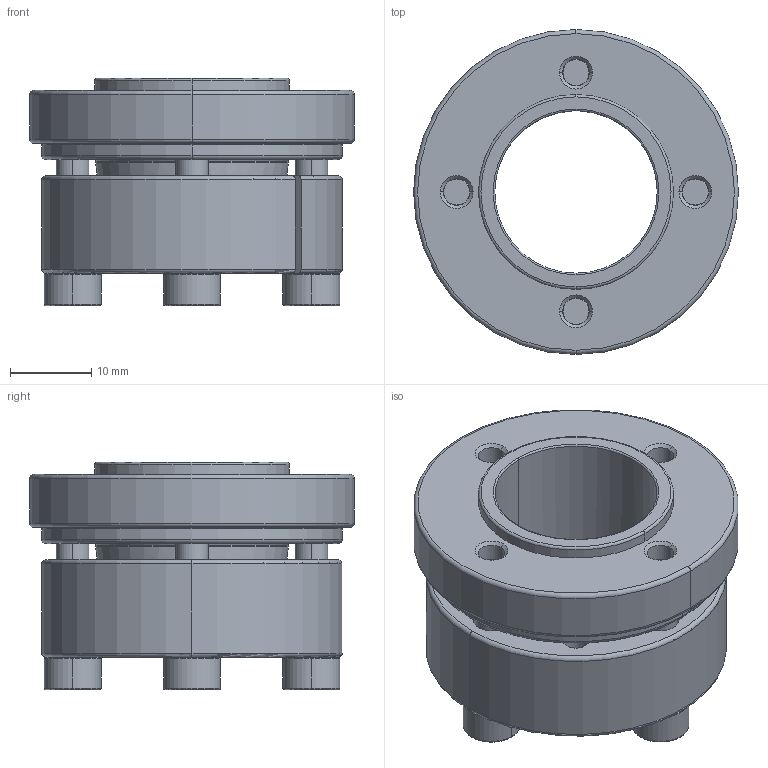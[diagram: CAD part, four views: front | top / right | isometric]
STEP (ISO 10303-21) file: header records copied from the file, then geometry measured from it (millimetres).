
FILE_DESCRIPTION (( 'STEP AP203' ), '1' );
FILE_NAME ('SAPC-20-37.STEP', '2013-07-25T03:23:03', ( 'MYCOM' ), ( '' ), 'SwSTEP 2.0', 'SolidWorks 2012', '' );
FILE_SCHEMA (( 'CONFIG_CONTROL_DESIGN' ));
Length unit declared in the file: millimetre
Products named in the file (1): SAPC-20-37
Bounding box: 40 x 40 x 28 mm (x, y, z)
Volume: 17185.2 mm3; surface area: 9594.6 mm2
Topology: 1 solids, 1 shells, 235 faces, 577 edges, 342 vertices
Faces by surface type: plane 84, torus 61, cylinder 57, cone 33
Entity records: 7127 total; most frequent: CARTESIAN_POINT 1387, DIRECTION 1292, ORIENTED_EDGE 1138, EDGE_CURVE 569, AXIS2_PLACEMENT_3D 539, VERTEX_POINT 342, CIRCLE 303, EDGE_LOOP 263
